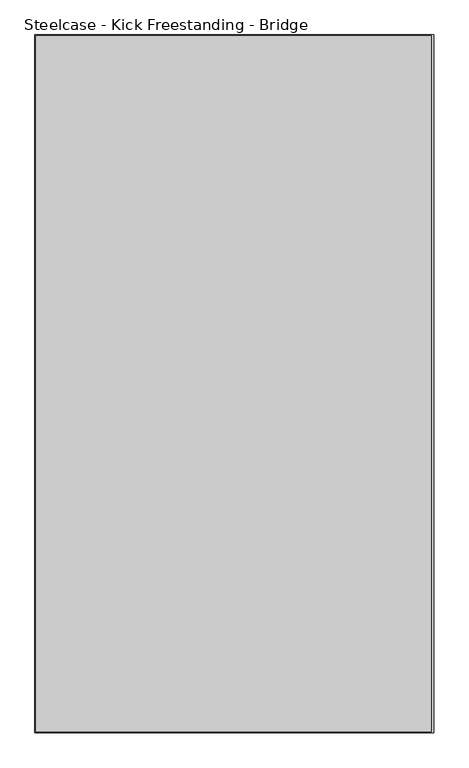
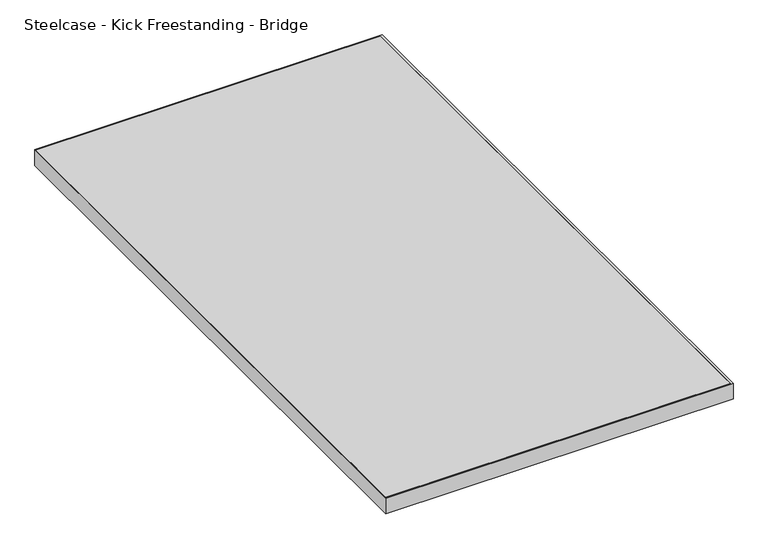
"""IFC4 building model written with IfcOpenShell, lengths in millimetres: furniture geometry, Steelcase - Kick Freestanding - Bridge : 24D x 42W."""

import ifcopenshell
import ifcopenshell.guid

model = None  # the IFC model being written
_history = None  # IfcOwnerHistory: only IFC2X3 demands one
_inside = {}  # id of a spatial element -> (the spatial element, [elements in it])
_under = {}  # id of a project, library or spatial element -> (it, [spatial elements below it])
_declared = {}  # id of a project -> (the project, [libraries it declares])
_typed = {}  # id of a type object -> (the type object, [elements of that type])
_made_of = {}  # id of a material, layer set ... -> (it, [elements and type objects made of it])


def new_model(schema):
    """Start an empty IFC model of exactly this schema.

    Asked for "IFC4X3", IfcOpenShell would pick the latest addendum, in which some entities
    have other attributes; the version numbers below select the first issue.
    IFC2X3 requires an IfcOwnerHistory on every rooted entity: one is made here for all.
    """
    global model, _history
    if schema == "IFC4X3":
        model = ifcopenshell.file(schema_version=(4, 3, 0, 0))
    else:
        model = ifcopenshell.file(schema=schema)
    _inside.clear()
    _under.clear()
    _declared.clear()
    _typed.clear()
    _made_of.clear()
    _history = None
    if model.schema == "IFC2X3":
        org = make("IfcOrganization", Name="unknown")
        user = make(
            "IfcPersonAndOrganization",
            ThePerson=make("IfcPerson", FamilyName="unknown"),
            TheOrganization=org,
        )
        app = make(
            "IfcApplication",
            ApplicationDeveloper=org,
            Version="unknown",
            ApplicationFullName="unknown",
            ApplicationIdentifier="unknown",
        )
        _history = make(
            "IfcOwnerHistory",
            OwningUser=user,
            OwningApplication=app,
            ChangeAction="ADDED",
            CreationDate=0,
        )
    return model


def make(cls, **values):
    """One entity of the class cls with the attributes given. An attribute that is None is left unset."""
    return model.create_entity(
        cls, **{name: value for name, value in values.items() if value is not None}
    )


def rooted(cls, **values):
    """An entity with a GlobalId (a new one), such as an element, a storey or a relation."""
    return make(cls, GlobalId=ifcopenshell.guid.new(), OwnerHistory=_history, **values)


def si_unit(unit_type, name, prefix=None):
    """IfcSIUnit, for example si_unit("LENGTHUNIT", "METRE", prefix="MILLI")."""
    return make("IfcSIUnit", UnitType=unit_type, Prefix=prefix, Name=name)


def assignment(units):
    """IfcUnitAssignment: the units of a project."""
    return None if units is None else make("IfcUnitAssignment", Units=units)


def point(xyz):
    """IfcCartesianPoint."""
    return None if xyz is None else make("IfcCartesianPoint", Coordinates=xyz)


def direction(xyz):
    """IfcDirection."""
    return None if xyz is None else make("IfcDirection", DirectionRatios=xyz)


def frame(location, z_axis=None, x_axis=None):
    """IfcAxis2Placement3D, a coordinate frame: its origin and axes. An axis left out is left unset."""
    return make(
        "IfcAxis2Placement3D",
        Location=point(location),
        Axis=direction(z_axis),
        RefDirection=direction(x_axis),
    )


def origin():
    """The frame at (0, 0, 0) with its axes left unset."""
    return frame((0.0, 0.0, 0.0))


def place(relative_to, where):
    """IfcLocalPlacement: puts the frame where relative to a parent placement (None: the world)."""
    return make(
        "IfcLocalPlacement", PlacementRelTo=relative_to, RelativePlacement=where
    )


def context(
    kind, dimensions, precision=None, world=None, true_north=None, identifier=None
):
    """IfcGeometricRepresentationContext, for example the 3D "Model" context."""
    return make(
        "IfcGeometricRepresentationContext",
        ContextIdentifier=identifier,
        ContextType=kind,
        CoordinateSpaceDimension=dimensions,
        Precision=precision,
        WorldCoordinateSystem=world,
        TrueNorth=true_north,
    )


def project(units=None, contexts=None):
    """IfcProject with its units and contexts."""
    return rooted(
        "IfcProject",
        Name="project",
        RepresentationContexts=contexts,
        UnitsInContext=assignment(units),
    )


def spatial(cls, under=None, at=None, **own):
    """A site, building, storey or space (cls), placed at a placement, below another one or the project."""
    s = rooted(cls, ObjectPlacement=at, **own)
    if under is not None:
        _under.setdefault(under.id(), (under, []))[1].append(s)
    return s


def polyline(points):
    """IfcPolyline through the points."""
    return make("IfcPolyline", Points=[point(p) for p in points])


def outline(outer, holes=None, kind="AREA"):
    """IfcArbitraryClosedProfileDef: a profile drawn as a closed curve; with holes, ...WithVoids."""
    if holes is None:
        return make("IfcArbitraryClosedProfileDef", ProfileType=kind, OuterCurve=outer)
    return make(
        "IfcArbitraryProfileDefWithVoids",
        ProfileType=kind,
        OuterCurve=outer,
        InnerCurves=holes,
    )


def extrude(swept, where, along, depth):
    """IfcExtrudedAreaSolid: the profile swept, set in the frame where, extruded along a direction by depth."""
    return make(
        "IfcExtrudedAreaSolid",
        SweptArea=swept,
        Position=where,
        ExtrudedDirection=direction(along),
        Depth=depth,
    )


def shape(context_of_items, identifier, shape_type, items):
    """IfcShapeRepresentation: the items that make up one representation, for example the "Body"."""
    return make(
        "IfcShapeRepresentation",
        ContextOfItems=context_of_items,
        RepresentationIdentifier=identifier,
        RepresentationType=shape_type,
        Items=items,
    )


def source(mapping_origin, context_of_items, identifier, shape_type, items):
    """IfcRepresentationMap: a shape defined once, which mapped items show again and again."""
    return make(
        "IfcRepresentationMap",
        MappingOrigin=mapping_origin,
        MappedRepresentation=shape(context_of_items, identifier, shape_type, items),
    )


def transform(
    local_origin,
    x_axis=None,
    y_axis=None,
    z_axis=None,
    scale=None,
    scale2=None,
    scale3=None,
    uniform=True,
):
    """IfcCartesianTransformationOperator3D, or its non-uniform kind. x_axis, y_axis, z_axis: its Axis1, 2, 3."""
    if uniform:
        return make(
            "IfcCartesianTransformationOperator3D",
            Axis1=direction(x_axis),
            Axis2=direction(y_axis),
            LocalOrigin=point(local_origin),
            Scale=scale,
            Axis3=direction(z_axis),
        )
    return make(
        "IfcCartesianTransformationOperator3DnonUniform",
        Axis1=direction(x_axis),
        Axis2=direction(y_axis),
        LocalOrigin=point(local_origin),
        Scale=scale,
        Axis3=direction(z_axis),
        Scale2=scale2,
        Scale3=scale3,
    )


def mapped(mapping_source, mapping_target):
    """IfcMappedItem: shows the shape of a source again, moved by a transform."""
    return make(
        "IfcMappedItem", MappingSource=mapping_source, MappingTarget=mapping_target
    )


def made_of(thing, what):
    """Note that an element or type object is made of a material, layer set ...; save() writes the relation."""
    if what is not None:
        _made_of.setdefault(what.id(), (what, []))[1].append(thing)
    return thing


def element(
    cls,
    number,
    at=None,
    inside=None,
    cuts=None,
    type_object=None,
    material=None,
    context=None,
    identifier="Body",
    shape_type=None,
    held_by="IfcProductDefinitionShape",
    body=None,
    shapes=None,
    **own,
):
    """One element of the class cls, such as IfcWall. Its Tag is "e" and its number.

    at: its placement. inside: the storey or other place that contains it. cuts: it is an
    opening in that element (IfcRelVoidsElement). A single representation is given by context,
    identifier, shape_type and body (its items); several are given by shapes. held_by: the class
    of the entity that holds the representations. save() writes the other relations.
    """
    e = rooted(cls, Tag="e%d" % number, ObjectPlacement=at, **own)
    if body is not None:
        shapes = [shape(context, identifier, shape_type, body)]
    if shapes is not None:
        e.Representation = make(held_by, Representations=shapes)
    if inside is not None:
        _inside.setdefault(inside.id(), (inside, []))[1].append(e)
    if cuts is not None:
        rooted(
            "IfcRelVoidsElement", RelatingBuildingElement=cuts, RelatedOpeningElement=e
        )
    if type_object is not None:
        _typed.setdefault(type_object.id(), (type_object, []))[1].append(e)
    return made_of(e, material)


def aggregate(whole, parts):
    """IfcRelAggregates: a whole, such as a stair, and the parts it consists of."""
    return rooted("IfcRelAggregates", RelatingObject=whole, RelatedObjects=parts)


def save(model, path):
    """Write the relations noted so far, then the file.

    IfcRelAggregates (storeys below a building ...), IfcRelContainedInSpatialStructure (elements
    in a storey), IfcRelDefinesByType, IfcRelAssociatesMaterial and IfcRelDeclares: one each for
    every whole, place, type object, material and project.
    """
    for whole, parts in _under.values():
        aggregate(whole, parts)
    for where, things in _inside.values():
        rooted(
            "IfcRelContainedInSpatialStructure",
            RelatedElements=things,
            RelatingStructure=where,
        )
    for kind, things in _typed.values():
        rooted("IfcRelDefinesByType", RelatedObjects=things, RelatingType=kind)
    for what, things in _made_of.values():
        rooted("IfcRelAssociatesMaterial", RelatedObjects=things, RelatingMaterial=what)
    for by, libraries in _declared.values():
        rooted("IfcRelDeclares", RelatingContext=by, RelatedDefinitions=libraries)
    model.write(path)


def steelcase_kick_freestanding_bridge_01d7080e(model_context):
    return source(origin(), model_context, "Body", "SweptSolid", [
        extrude(outline(polyline([(2769.2176592, -548.0845152), (2769.2176592, -1612.3445152), (2164.8500425, -1612.3445152), (2164.8500425, -548.0845152), (2769.2176592, -548.0845152)])), frame((0.0, 0.0, 682.244), z_axis=(0.0, 0.0, 1.0), x_axis=(1.0, 0.0, 0.0)), (0.0, 0.0, 1.0), 28.956),
        extrude(outline(polyline([(2773.4594425, -546.8145152), (2773.4594425, -1613.6145152), (2163.8594425, -1613.6145152), (2163.8594425, -546.8145152), (2773.4594425, -546.8145152)]), holes=[polyline([(2769.2176592, -548.0845152), (2164.8500425, -548.0845152), (2164.8500425, -1612.3445152), (2769.2176592, -1612.3445152), (2769.2176592, -548.0845152)])]), frame((0.0, 0.0, 682.244), z_axis=(0.0, 0.0, 1.0), x_axis=(1.0, 0.0, 0.0)), (0.0, 0.0, 1.0), 28.956),
    ])


if __name__ == "__main__":
    model = new_model("IFC4")
    model_context = context("Model", 3, world=origin())
    ifc_project = project(units=[si_unit("LENGTHUNIT", "METRE", prefix="MILLI")], contexts=[model_context])
    site = spatial("IfcSite", under=ifc_project)
    building = spatial("IfcBuilding", under=site)
    placement = place(None, origin())
    steelcase_kick_freestanding_bridge_shape = steelcase_kick_freestanding_bridge_01d7080e(model_context)
    element("IfcFurniture", 1, ObjectType="Steelcase - Kick Freestanding - Bridge : 24D x 42W", at=placement, inside=building, context=model_context, shape_type="MappedRepresentation", body=[
        mapped(steelcase_kick_freestanding_bridge_shape, transform((0.0, 0.0, 0.0), x_axis=(1.0, 0.0, 0.0), y_axis=(0.0, 1.0, 0.0), z_axis=(0.0, 0.0, 1.0))),
    ])
    save(model, "model.ifc")
